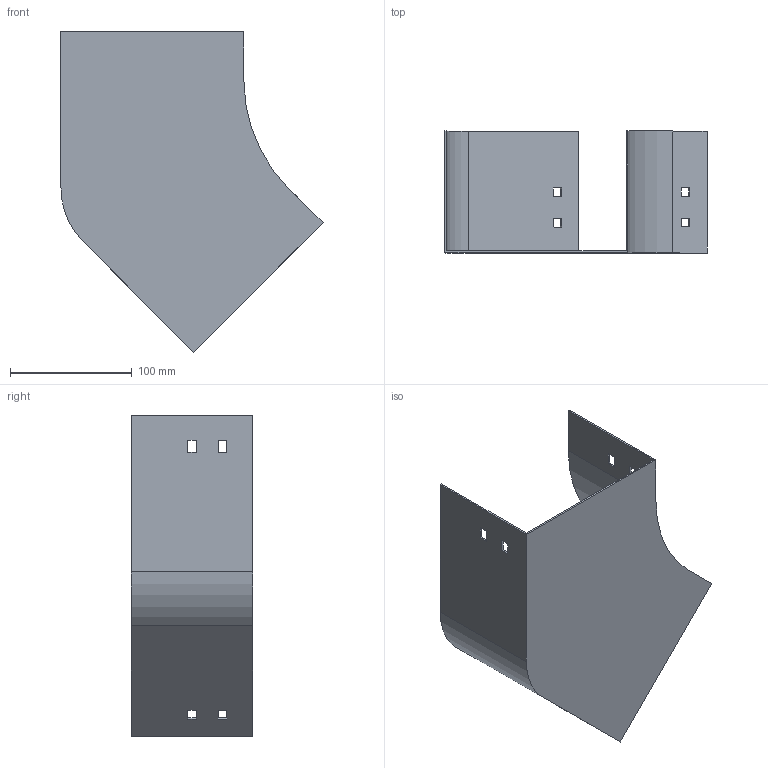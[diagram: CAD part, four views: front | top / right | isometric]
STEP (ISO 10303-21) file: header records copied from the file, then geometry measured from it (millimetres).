
FILE_DESCRIPTION (( 'STEP AP214' ), '1' );
FILE_NAME ('P4_151.step', '2025-07-16T09:18:55', ( '' ), ( '' ), 'SwSTEP 2.0', 'SolidWorks 2023', '' );
FILE_SCHEMA (( 'AUTOMOTIVE_DESIGN' ));
Length unit declared in the file: millimetre
Products named in the file (1): P4_151
Bounding box: 214.9 x 100 x 262.74 mm (x, y, z)
Volume: 126225.4 mm3; surface area: 170474.5 mm2
Topology: 1 solids, 1 shells, 50 faces, 144 edges, 96 vertices
Faces by surface type: plane 46, cylinder 4
Entity records: 1671 total; most frequent: CARTESIAN_POINT 291, ORIENTED_EDGE 288, DIRECTION 254, EDGE_CURVE 144, VECTOR 136, LINE 136, VERTEX_POINT 96, EDGE_LOOP 66
